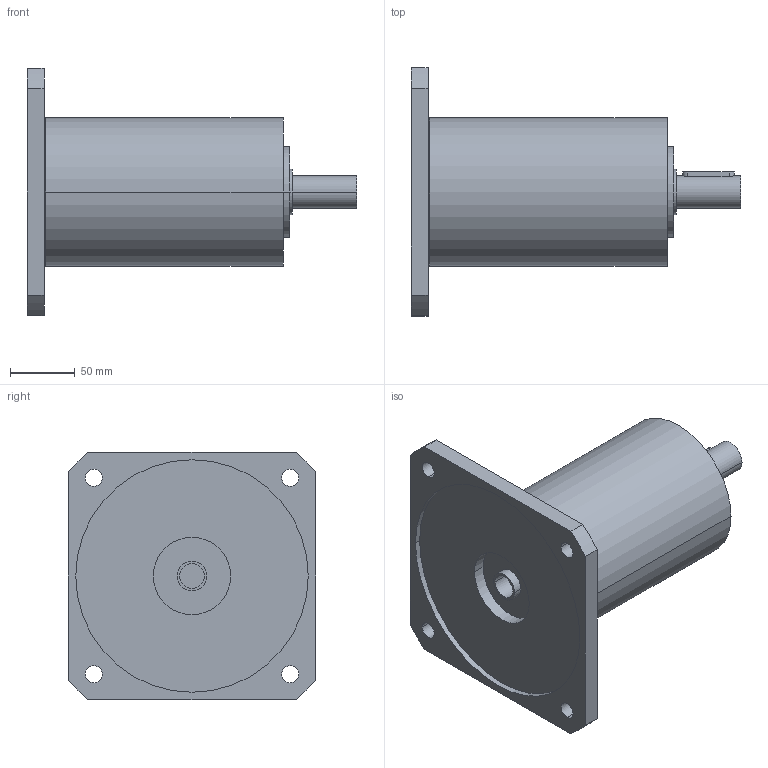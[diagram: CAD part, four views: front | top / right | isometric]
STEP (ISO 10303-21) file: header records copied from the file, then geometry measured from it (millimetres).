
FILE_DESCRIPTION(('CoCreate Modeling STEP Export'),'2;1');
FILE_NAME('GPR125_ig-48-64-80-100-140-196-245-343_25_B14_19_P09.stp','2014-08-26T14:21:49',(''),(''),'CoCreate Modeling STEP processor for AP214 (Solid Model)','CoCreate Modeling 16.00C 25-Feb-2009 (C) Parametric Technology GmbH','');
FILE_SCHEMA(('AUTOMOTIVE_DESIGN { 1 0 10303 214 1 1 1 1 }'));
Length unit declared in the file: millimetre
Products named in the file (2): GPR125_ig-48-64-80-100-140-196-245-343_25_B14_19_P09
Assembly tree (1 placements, depth 2):
  GPR125_ig-48-64-80-100-140-196-245-343_25_B14_19_P09
    GPR125_ig-48-64-80-100-140-196-245-343_25_B14_19_P09
Bounding box: 255 x 192 x 192 mm (x, y, z)
Volume: 2273703.4 mm3; surface area: 178297.1 mm2
Topology: 1 solids, 1 shells, 68 faces, 188 edges, 134 vertices
Faces by surface type: cylinder 42, plane 22, cone 4
Entity records: 1928 total; most frequent: ORIENTED_EDGE 372, CARTESIAN_POINT 363, DIRECTION 258, EDGE_CURVE 186, VERTEX_POINT 134, AXIS2_PLACEMENT_3D 97, EDGE_LOOP 90, FACE_OUTER_BOUND 68
